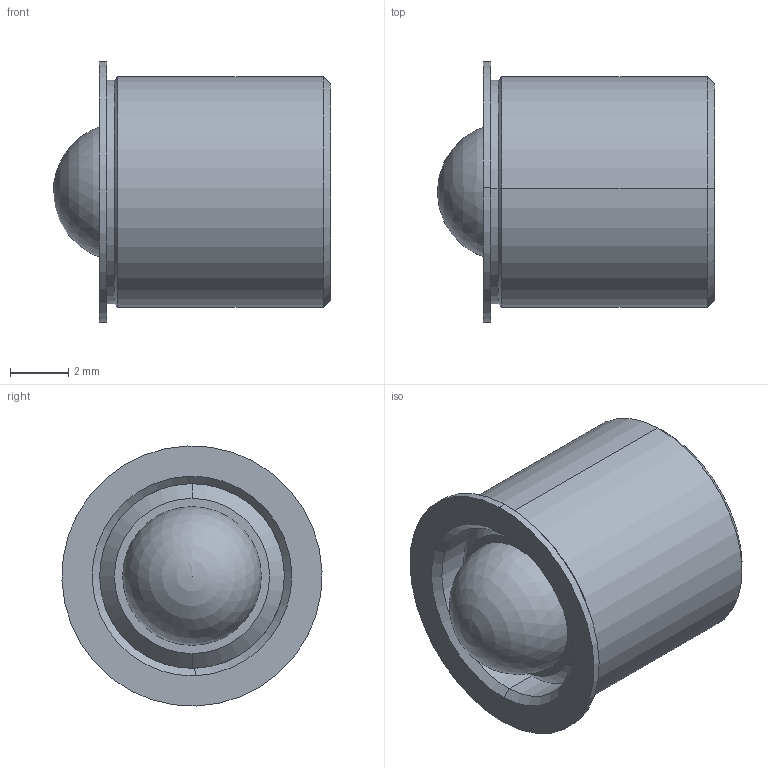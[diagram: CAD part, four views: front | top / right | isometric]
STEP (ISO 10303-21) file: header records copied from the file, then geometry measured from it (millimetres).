
FILE_DESCRIPTION (( 'STEP AP214' ), '1' );
FILE_NAME ('TSB250-80-375_312-AA.STEP', '2013-03-13T22:12:42', ( 'workpc' ), ( 'Microsoft' ), 'SwSTEP 2.0', 'SolidWorks 2013', '' );
FILE_SCHEMA (( 'AUTOMOTIVE_DESIGN' ));
Length unit declared in the file: inch
Products named in the file (1): TSB250-80-375_312-AA
Bounding box: 9.53 x 8.94 x 8.94 mm (x, y, z)
Surface area: 551.3 mm2 (no closed solid volume)
Topology: 0 solids, 4 shells, 33 faces, 77 edges, 49 vertices
Faces by surface type: cone 12, plane 11, cylinder 8, sphere 2
Entity records: 1359 total; most frequent: DIRECTION 174, CARTESIAN_POINT 152, ORIENTED_EDGE 132, EDGE_CURVE 72, AXIS2_PLACEMENT_3D 68, VERTEX_POINT 46, EDGE_LOOP 38, LINE 38
